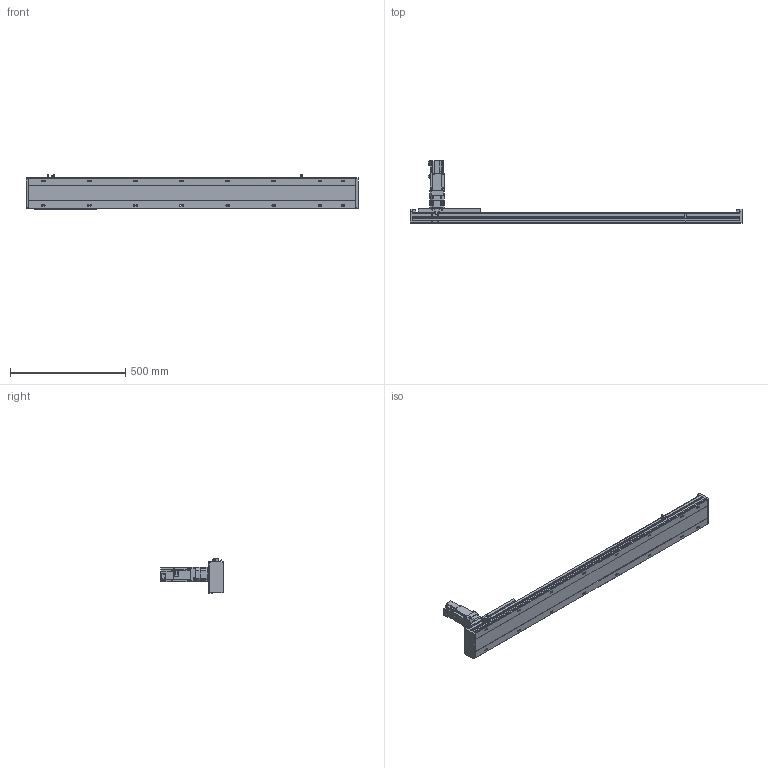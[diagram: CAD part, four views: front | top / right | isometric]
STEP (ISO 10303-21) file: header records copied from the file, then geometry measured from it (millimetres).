
FILE_DESCRIPTION(/* description */ ('STEP AP203'),/* implementation_level */ '2;1');
FILE_NAME(/* name */ 'SHS14A-L10-S1100-BC-T40-C1-N(0)',/* time_stamp */ '2023-03-27T08:48:31+02:00',/* author */ ('License CC BY-ND 4.0'),/* organization */ ('CADENAS'),/* preprocessor_version */ 'ST-DEVELOPER v19.3',/* originating_system */ 'PARTsolutions',/* authorisation */ ' ');
FILE_SCHEMA (('CONFIG_CONTROL_DESIGN'));
Length unit declared in the file: millimetre
Products named in the file (7): SHS14A-L10-S1100-BC-T40-C1-N(0); PSC140-sensor; T40-p1; SHS14AT_body3; SHS14A-1100_slider; SHS14A_body2; SHS14A-S1100-BC-T40-C1(0)_body
Assembly tree (13 placements, depth 2):
  SHS14A-L10-S1100-BC-T40-C1-N(0)
    PSC140-sensor  x3
    T40-p1
    SHS14AT_body3
    SHS14A-1100_slider
    SHS14A_body2  x6
    SHS14A-S1100-BC-T40-C1(0)_body
Bounding box: 1440 x 272.7 x 150.9 mm (x, y, z)
Volume: 6690881.1 mm3; surface area: 1067499.5 mm2
Topology: 13 solids, 13 shells, 2028 faces, 5183 edges, 3390 vertices
Faces by surface type: plane 1443, cylinder 507, cone 68, torus 10
Full cylindrical faces by diameter (mm): 2.8 x3, 4.134 x24, 4.2 x7, 4.4 x24, 4.5 x24, 4.6 x3, 4.8 x24, 4.917 x24, 5 x8, 5.5 x11, 5.94 x6, 6 x2, 6.6 x16, 8 x24, 8.49 x4, 8.5 x4, 9 x4, 10.5 x16, 13.964 x1, 14 x1, 14.182 x1, 16 x1, 18.974 x1, 19.274 x1, 19.774 x1, 19.8 x1, 34.442 x1, 42 x1, 50 x5
Entity records: 31586 total; most frequent: CARTESIAN_POINT 5562, DIRECTION 5343, ORIENTED_EDGE 4962, EDGE_CURVE 2481, AXIS2_PLACEMENT_3D 1825, VERTEX_POINT 1756, LINE 1693, VECTOR 1693
